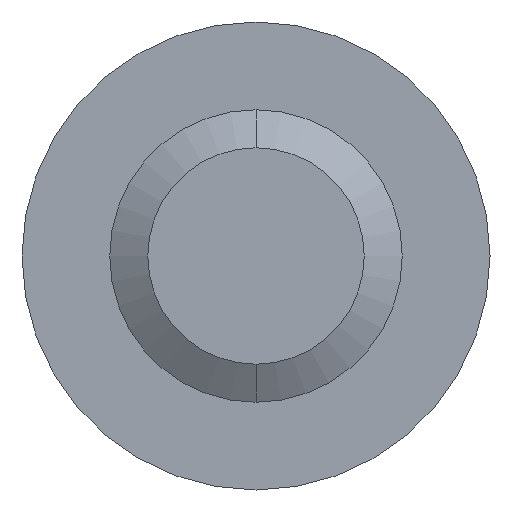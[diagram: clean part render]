
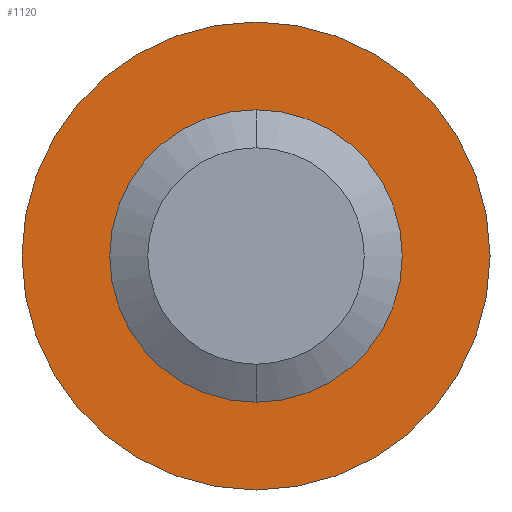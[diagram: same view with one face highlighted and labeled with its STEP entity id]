
A CAD part, front view. The second image highlights one B-rep face of the part: STEP entity #1120.
In plain terms, the highlighted planar face has unit normal (0, -1, 0).
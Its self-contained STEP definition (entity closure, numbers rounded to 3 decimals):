
#44 = ORIENTED_EDGE ( 'NONE', *, *, #372, .F. ) ;
#100 = DIRECTION ( 'NONE',  ( 0., 0., 1. ) ) ;
#140 = DIRECTION ( 'NONE',  ( 0., 1., 0. ) ) ;
#149 = CARTESIAN_POINT ( 'NONE',  ( 0., 20., 0. ) ) ;
#154 = CARTESIAN_POINT ( 'NONE',  ( 0., 20., 0. ) ) ;
#198 = DIRECTION ( 'NONE',  ( 0., 1., 0. ) ) ;
#228 = CIRCLE ( 'NONE', #1270, 5. ) ;
#304 = CARTESIAN_POINT ( 'NONE',  ( 0., 20., 0. ) ) ;
#324 = DIRECTION ( 'NONE',  ( 0., 1., 0. ) ) ;
#341 = DIRECTION ( 'NONE',  ( 0., 0., 1. ) ) ;
#372 = EDGE_CURVE ( 'NONE', #853, #1835, #1535, .T. ) ;
#418 = EDGE_LOOP ( 'NONE', ( #1355, #1057 ) ) ;
#457 = DIRECTION ( 'NONE',  ( 0., 0., 1. ) ) ;
#491 = CARTESIAN_POINT ( 'NONE',  ( 0., 20., 8. ) ) ;
#516 = CARTESIAN_POINT ( 'NONE',  ( 0., 20., 0. ) ) ;
#523 = VERTEX_POINT ( 'NONE', #646 ) ;
#594 = CARTESIAN_POINT ( 'NONE',  ( 0., 20., -5. ) ) ;
#646 = CARTESIAN_POINT ( 'NONE',  ( 0., 20., 5. ) ) ;
#748 = CARTESIAN_POINT ( 'NONE',  ( 0., 20., 0. ) ) ;
#847 = VERTEX_POINT ( 'NONE', #594 ) ;
#849 = DIRECTION ( 'NONE',  ( 0., 0., 1. ) ) ;
#853 = VERTEX_POINT ( 'NONE', #1558 ) ;
#901 = AXIS2_PLACEMENT_3D ( 'NONE', #516, #198, #849 ) ;
#969 = EDGE_CURVE ( 'NONE', #523, #847, #228, .T. ) ;
#994 = ORIENTED_EDGE ( 'NONE', *, *, #2063, .F. ) ;
#1000 = CIRCLE ( 'NONE', #1077, 8. ) ;
#1031 = PLANE ( 'NONE',  #901 ) ;
#1057 = ORIENTED_EDGE ( 'NONE', *, *, #969, .T. ) ;
#1077 = AXIS2_PLACEMENT_3D ( 'NONE', #154, #324, #1621 ) ;
#1120 = ADVANCED_FACE ( 'NONE', ( #1965, #1192 ), #1031, .F. ) ;
#1167 = AXIS2_PLACEMENT_3D ( 'NONE', #149, #2071, #457 ) ;
#1192 = FACE_BOUND ( 'NONE', #418, .T. ) ;
#1270 = AXIS2_PLACEMENT_3D ( 'NONE', #304, #1910, #341 ) ;
#1355 = ORIENTED_EDGE ( 'NONE', *, *, #1544, .T. ) ;
#1501 = AXIS2_PLACEMENT_3D ( 'NONE', #748, #140, #100 ) ;
#1525 = EDGE_LOOP ( 'NONE', ( #44, #994 ) ) ;
#1535 = CIRCLE ( 'NONE', #1167, 8. ) ;
#1544 = EDGE_CURVE ( 'NONE', #847, #523, #1878, .T. ) ;
#1558 = CARTESIAN_POINT ( 'NONE',  ( 0., 20., -8. ) ) ;
#1621 = DIRECTION ( 'NONE',  ( 0., 0., 1. ) ) ;
#1835 = VERTEX_POINT ( 'NONE', #491 ) ;
#1878 = CIRCLE ( 'NONE', #1501, 5. ) ;
#1910 = DIRECTION ( 'NONE',  ( 0., 1., 0. ) ) ;
#1965 = FACE_OUTER_BOUND ( 'NONE', #1525, .T. ) ;
#2063 = EDGE_CURVE ( 'NONE', #1835, #853, #1000, .T. ) ;
#2071 = DIRECTION ( 'NONE',  ( 0., 1., 0. ) ) ;
